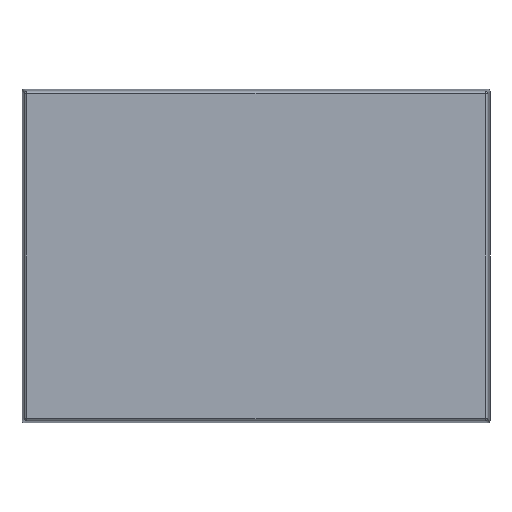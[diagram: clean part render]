
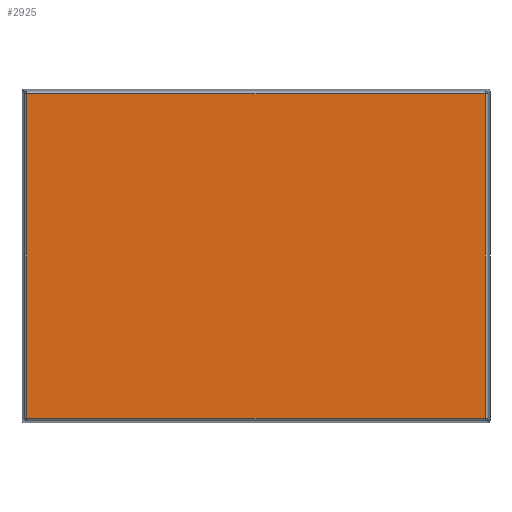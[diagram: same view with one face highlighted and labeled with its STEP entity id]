
A CAD part, front view. The second image highlights one B-rep face of the part: STEP entity #2925.
In plain terms, the highlighted planar face has unit normal (0, -1, 0).
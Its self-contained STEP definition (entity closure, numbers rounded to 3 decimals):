
#531 = CARTESIAN_POINT ( 'NONE',  ( 43.572, -8.847, 31.75 ) ) ;
#718 = CARTESIAN_POINT ( 'NONE',  ( -43.572, -8.847, 30.822 ) ) ;
#1190 = VERTEX_POINT ( 'NONE', #10264 ) ;
#1222 = EDGE_CURVE ( 'NONE', #5935, #6228, #7878, .T. ) ;
#2424 = EDGE_CURVE ( 'NONE', #12214, #5935, #2681, .T. ) ;
#2658 = DIRECTION ( 'NONE',  ( 1., 0., 0. ) ) ;
#2681 = LINE ( 'NONE', #13590, #12222 ) ;
#2885 = DIRECTION ( 'NONE',  ( 0., -1., 0. ) ) ;
#2925 = ADVANCED_FACE ( 'NONE', ( #6572 ), #4051, .T. ) ;
#3109 = VECTOR ( 'NONE', #5291, 1000. ) ;
#3251 = ORIENTED_EDGE ( 'NONE', *, *, #13556, .T. ) ;
#3684 = EDGE_CURVE ( 'NONE', #1190, #12214, #4106, .T. ) ;
#4051 = PLANE ( 'NONE',  #9147 ) ;
#4106 = LINE ( 'NONE', #531, #3109 ) ;
#4380 = DIRECTION ( 'NONE',  ( 0., 0., -1. ) ) ;
#5176 = LINE ( 'NONE', #6275, #7343 ) ;
#5291 = DIRECTION ( 'NONE',  ( 0., 0., 1. ) ) ;
#5778 = ORIENTED_EDGE ( 'NONE', *, *, #2424, .T. ) ;
#5935 = VERTEX_POINT ( 'NONE', #718 ) ;
#6228 = VERTEX_POINT ( 'NONE', #9831 ) ;
#6275 = CARTESIAN_POINT ( 'NONE',  ( -44.5, -8.847, -30.822 ) ) ;
#6454 = DIRECTION ( 'NONE',  ( -1., 0., 0. ) ) ;
#6572 = FACE_OUTER_BOUND ( 'NONE', #9850, .T. ) ;
#7219 = ORIENTED_EDGE ( 'NONE', *, *, #1222, .T. ) ;
#7343 = VECTOR ( 'NONE', #2658, 1000. ) ;
#7878 = LINE ( 'NONE', #14801, #13181 ) ;
#9147 = AXIS2_PLACEMENT_3D ( 'NONE', #13632, #2885, #4380 ) ;
#9831 = CARTESIAN_POINT ( 'NONE',  ( -43.572, -8.847, -30.822 ) ) ;
#9850 = EDGE_LOOP ( 'NONE', ( #10847, #5778, #7219, #3251 ) ) ;
#10264 = CARTESIAN_POINT ( 'NONE',  ( 43.572, -8.847, -30.822 ) ) ;
#10847 = ORIENTED_EDGE ( 'NONE', *, *, #3684, .T. ) ;
#12214 = VERTEX_POINT ( 'NONE', #12733 ) ;
#12222 = VECTOR ( 'NONE', #6454, 1000. ) ;
#12484 = DIRECTION ( 'NONE',  ( 0., 0., -1. ) ) ;
#12733 = CARTESIAN_POINT ( 'NONE',  ( 43.572, -8.847, 30.822 ) ) ;
#13181 = VECTOR ( 'NONE', #12484, 1000. ) ;
#13556 = EDGE_CURVE ( 'NONE', #6228, #1190, #5176, .T. ) ;
#13590 = CARTESIAN_POINT ( 'NONE',  ( -44.5, -8.847, 30.822 ) ) ;
#13632 = CARTESIAN_POINT ( 'NONE',  ( -44.5, -8.847, 31.75 ) ) ;
#14801 = CARTESIAN_POINT ( 'NONE',  ( -43.572, -8.847, 31.75 ) ) ;
